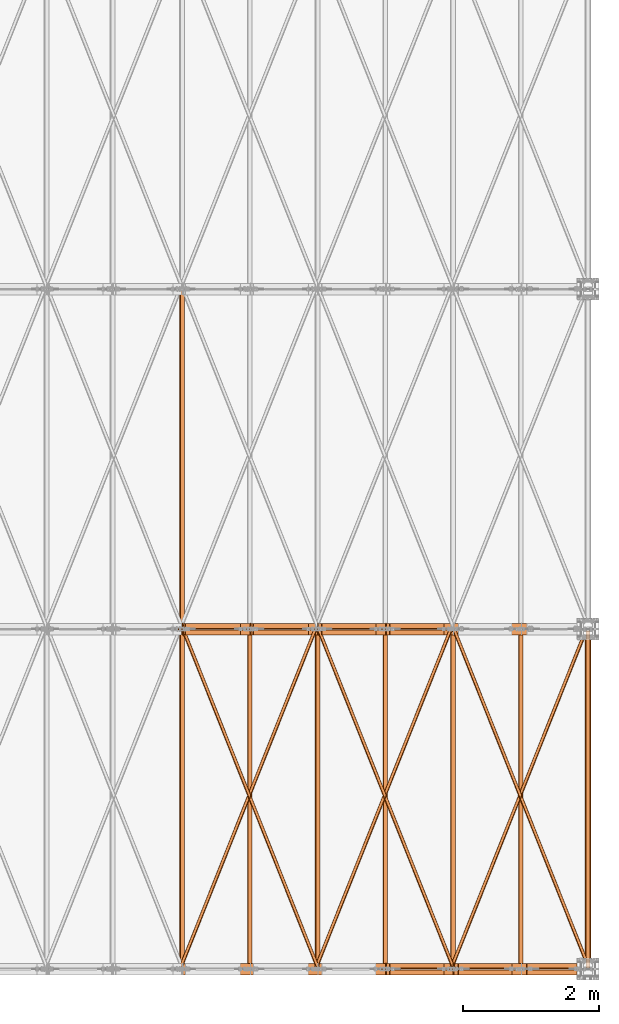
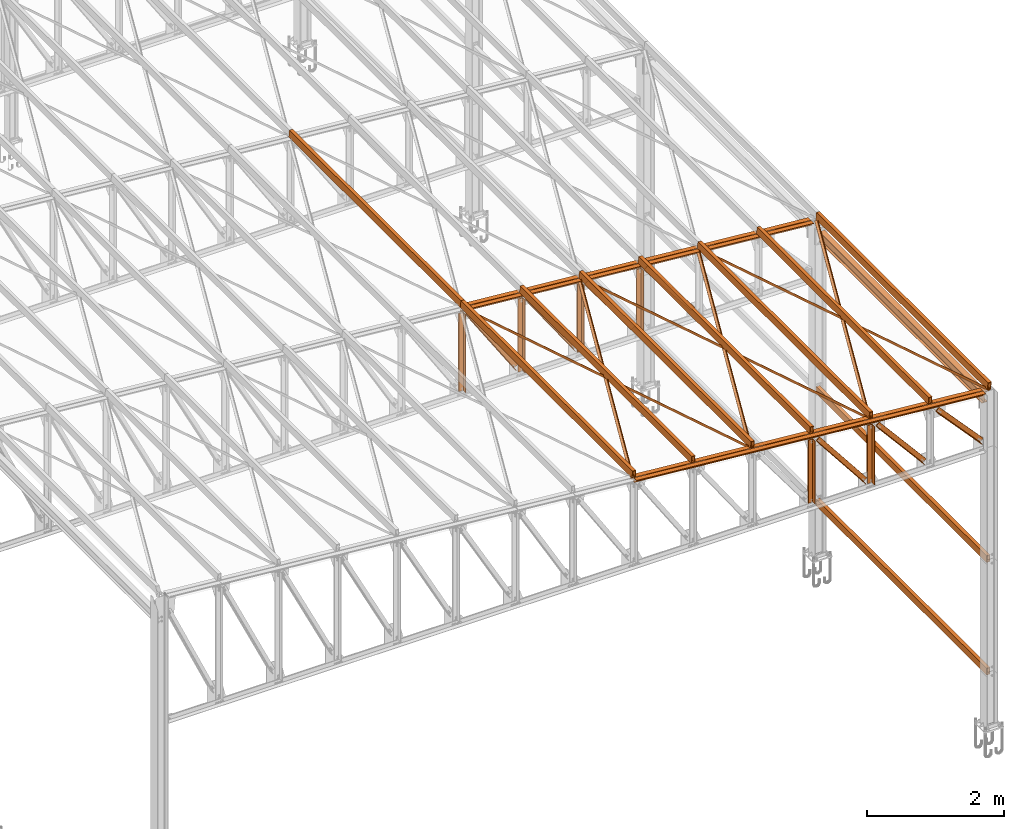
# One storey, part 235 of 251: 47 proxies.
"""IFC4 building model written with IfcOpenShell, lengths in metres."""

from ifc_helpers import new_model, si_unit, frame, frame_2d, origin_with_axes, origin_2d_with_axis, place, context, project, spatial, polyline, hollow_rectangle, i_section, l_section, outline, extrude, clip, halfspace, material, material_profile, profile_set, profile_usage, type_object, element, save


model = new_model("IFC4")

# Units and contexts
model_context = context("Model", 3, precision=1e-05, world=origin_with_axes())
ifc_project = project(units=[si_unit("LENGTHUNIT", "METRE"), si_unit("AREAUNIT", "SQUARE_METRE"), si_unit("VOLUMEUNIT", "CUBIC_METRE"), si_unit("MASSUNIT", "GRAM", prefix="KILO"), si_unit("TIMEUNIT", "SECOND"), si_unit("PLANEANGLEUNIT", "RADIAN"), si_unit("SOLIDANGLEUNIT", "STERADIAN"), si_unit("THERMODYNAMICTEMPERATUREUNIT", "DEGREE_CELSIUS")], contexts=[model_context])

# Site, building, storey
placement_1 = place(None, origin_with_axes())
site = spatial("IfcSite", under=ifc_project, at=placement_1, Name="Italia", CompositionType="ELEMENT")
building = spatial("IfcBuilding", under=site, at=placement_1, Name="Deposito", CompositionType="ELEMENT")
storey = spatial("IfcBuildingStorey", under=building, at=placement_1, Name="Storey 0", CompositionType="ELEMENT", Elevation=0.0)

# Proxies
ifc_material = material(Name="Acciaio", Category="Acciaio")
ifc_material_profile = material_profile(ifc_material, i_section(OverallWidth=0.2, OverallDepth=0.19, WebThickness=0.006, FlangeThickness=0.01, FilletRadius=0.018, at=origin_2d_with_axis()), Name="7 PILASTRO HEA200")
ifc_profile_set = profile_set([ifc_material_profile])
ifc_profile_usage_1 = profile_usage(ifc_profile_set, cardinal=2)
member_type_1 = type_object("IfcMemberType", Name="5 2L80x8", PredefinedType="MEMBER", material=ifc_profile_usage_1)
placement_2 = place(placement_1, origin_with_axes())
proxy_1_placement = place(placement_2, origin_with_axes())
element("IfcBuildingElementProxy", 1, at=proxy_1_placement, inside=storey, type_object=member_type_1, Name="230071", context=model_context, shape_type="SweptSolid", body=[
    extrude(outline(polyline([(0.0, 0.0), (0.08, 0.0), (0.08, -0.00800085), (0.008, -0.00800085), (0.00800001, -0.0800004), (0.0, -0.0800004), (0.0, 0.0)])), frame((14.0298, 0.005, 6.54493), z_axis=(0.99619472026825, 0.0, -0.087155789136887), x_axis=(0.0, 1.0, 0.0)), (0.0, 0.0, 1.0), 5.89033),
])
ifc_profile_usage_2 = profile_usage(ifc_profile_set, cardinal=2)
member_type_2 = type_object("IfcMemberType", Name="5 2L80x8", PredefinedType="MEMBER", material=ifc_profile_usage_2)
proxy_2_placement = place(placement_2, origin_with_axes())
element("IfcBuildingElementProxy", 2, at=proxy_2_placement, inside=storey, type_object=member_type_2, Name="230071", context=model_context, shape_type="SweptSolid", body=[
    extrude(outline(polyline([(0.0, 0.0), (-0.008, 0.0), (-0.00800001, 0.0719995), (-0.08, 0.0719995), (-0.08, 0.0800004), (0.0, 0.0800004), (0.0, 0.0)])), frame((14.0228, -0.00499999, 6.46523), z_axis=(0.99619472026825, 0.0, -0.087155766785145), x_axis=(0.0, 1.0, 0.0)), (0.0, 0.0, 1.0), 5.89033),
])
ifc_profile_usage_3 = profile_usage(ifc_profile_set, cardinal=1)
member_type_3 = type_object("IfcMemberType", Name="5 2L80x8", PredefinedType="MEMBER", material=ifc_profile_usage_3)
proxy_3_placement = place(placement_2, origin_with_axes())
element("IfcBuildingElementProxy", 3, at=proxy_3_placement, inside=storey, type_object=member_type_3, Name="100001", context=model_context, shape_type="SweptSolid", body=[
    extrude(outline(polyline([(0.0, 0.0), (-0.08, 0.0), (-0.08, 0.00799942), (-0.008, 0.00799942), (-0.008, 0.079998), (0.0, 0.079998), (0.0, 0.0)])), frame((19.0971, -0.005, 5.95199), z_axis=(0.675589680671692, 0.0, -0.737277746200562), x_axis=(0.0, 1.0, 0.0)), (0.0, 0.0, 1.0), 1.09364),
])
ifc_profile_usage_4 = profile_usage(ifc_profile_set, cardinal=1)
member_type_4 = type_object("IfcMemberType", Name="5 2L80x8", PredefinedType="MEMBER", material=ifc_profile_usage_4)
proxy_4_placement = place(placement_2, origin_with_axes())
element("IfcBuildingElementProxy", 4, at=proxy_4_placement, inside=storey, type_object=member_type_4, Name="100001", context=model_context, shape_type="SweptSolid", body=[
    extrude(outline(polyline([(0.0, 0.0), (0.008, 0.0), (0.008, -0.0719986), (0.08, -0.0719986), (0.08, -0.0799999), (0.0, -0.0799999), (0.0, 0.0)])), frame((19.1561, 0.005, 6.00604), z_axis=(0.675590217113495, 0.0, -0.737277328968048), x_axis=(0.0, 1.0, 0.0)), (0.0, 0.0, 1.0), 1.09364),
])
ifc_profile_usage_5 = profile_usage(ifc_profile_set, cardinal=1)
member_type_5 = type_object("IfcMemberType", Name="5 2L80x8", PredefinedType="MEMBER", material=ifc_profile_usage_5)
proxy_5_placement = place(placement_2, origin_with_axes())
element("IfcBuildingElementProxy", 5, at=proxy_5_placement, inside=storey, type_object=member_type_5, Name="110001", context=model_context, shape_type="SweptSolid", body=[
    extrude(outline(polyline([(0.0, 0.0), (-0.08, 0.0), (-0.08, 0.00799942), (-0.008, 0.00799942), (-0.008, 0.079998), (0.0, 0.079998), (0.0, 0.0)])), frame((18.0901, -0.005, 6.04221), z_axis=(0.646905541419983, 0.0, -0.762570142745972), x_axis=(0.0, 1.0, 0.0)), (0.0, 0.0, 1.0), 1.21365),
])
ifc_profile_usage_6 = profile_usage(ifc_profile_set, cardinal=1)
member_type_6 = type_object("IfcMemberType", Name="5 2L80x8", PredefinedType="MEMBER", material=ifc_profile_usage_6)
proxy_6_placement = place(placement_2, origin_with_axes())
element("IfcBuildingElementProxy", 6, at=proxy_6_placement, inside=storey, type_object=member_type_6, Name="110001", context=model_context, shape_type="SweptSolid", body=[
    extrude(outline(polyline([(0.0, 0.0), (0.008, 0.0), (0.008, -0.0720005), (0.08, -0.0720005), (0.08, -0.0799999), (0.0, -0.0799999), (0.0, 0.0)])), frame((18.1512, 0.005, 6.09396), z_axis=(0.646905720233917, 0.0, -0.762569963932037), x_axis=(0.0, 1.0, 0.0)), (0.0, 0.0, 1.0), 1.21365),
])
ifc_profile_usage_7 = profile_usage(ifc_profile_set, cardinal=1)
member_type_7 = type_object("IfcMemberType", Name="5 2L80x8", PredefinedType="MEMBER", material=ifc_profile_usage_7)
proxy_7_placement = place(placement_2, origin_with_axes())
element("IfcBuildingElementProxy", 7, at=proxy_7_placement, inside=storey, type_object=member_type_7, Name="12", context=model_context, shape_type="SweptSolid", body=[
    extrude(outline(polyline([(0.0, 0.0), (-0.08, 0.0), (-0.08, 0.00799942), (-0.008, 0.00799942), (-0.008, 0.0799999), (0.0, 0.0799999), (0.0, 0.0)])), frame((18.0301, -0.005, 5.06753), z_axis=(0.0, 0.0, 1.0), x_axis=(0.0, 1.0, 0.0)), (0.0, 0.0, 1.0), 1.03702),
])
ifc_profile_usage_8 = profile_usage(ifc_profile_set, cardinal=1)
member_type_8 = type_object("IfcMemberType", Name="5 2L80x8", PredefinedType="MEMBER", material=ifc_profile_usage_8)
proxy_8_placement = place(placement_2, origin_with_axes())
element("IfcBuildingElementProxy", 8, at=proxy_8_placement, inside=storey, type_object=member_type_8, Name="12", context=model_context, shape_type="SweptSolid", body=[
    extrude(outline(polyline([(0.0, 0.0), (0.008, 0.0), (0.008, -0.0720005), (0.08, -0.0720005), (0.08, -0.0799999), (0.0, -0.0799999), (0.0, 0.0)])), frame((17.9501, 0.005, 5.06753), z_axis=(0.0, 0.0, 1.0), x_axis=(0.0, 1.0, 0.0)), (0.0, 0.0, 1.0), 1.03702),
])
ifc_profile_usage_9 = profile_usage(ifc_profile_set, cardinal=1)
member_type_9 = type_object("IfcMemberType", Name="5 2L80x8", PredefinedType="MEMBER", material=ifc_profile_usage_9)
proxy_9_placement = place(placement_2, origin_with_axes())
element("IfcBuildingElementProxy", 9, at=proxy_9_placement, inside=storey, type_object=member_type_9, Name="120001", context=model_context, shape_type="SweptSolid", body=[
    extrude(outline(polyline([(0.0, 0.0), (-0.08, 0.0), (-0.08, 0.00799942), (-0.008, 0.00799942), (-0.008, 0.0799999), (0.0, 0.0799999), (0.0, 0.0)])), frame((17.0848, -0.005, 6.13218), z_axis=(0.619758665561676, 0.0, -0.784792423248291), x_axis=(0.0, 1.0, 0.0)), (0.0, 0.0, 1.0), 1.27867),
])
ifc_profile_usage_10 = profile_usage(ifc_profile_set, cardinal=1)
member_type_10 = type_object("IfcMemberType", Name="5 2L80x8", PredefinedType="MEMBER", material=ifc_profile_usage_10)
proxy_10_placement = place(placement_2, origin_with_axes())
element("IfcBuildingElementProxy", 10, at=proxy_10_placement, inside=storey, type_object=member_type_10, Name="120001", context=model_context, shape_type="SweptSolid", body=[
    extrude(outline(polyline([(0.0, 0.0), (0.008, 0.0), (0.008, -0.0720005), (0.08, -0.0720005), (0.08, -0.0799999), (0.0, -0.0799999), (0.0, 0.0)])), frame((17.1476, 0.005, 6.18176), z_axis=(0.619759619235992, 0.0, -0.784791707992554), x_axis=(0.0, 1.0, 0.0)), (0.0, 0.0, 1.0), 1.27867),
])
ifc_profile_usage_11 = profile_usage(ifc_profile_set, cardinal=1)
member_type_11 = type_object("IfcMemberType", Name="5 2L80x8", PredefinedType="MEMBER", material=ifc_profile_usage_11)
proxy_11_placement = place(placement_2, origin_with_axes())
element("IfcBuildingElementProxy", 11, at=proxy_11_placement, inside=storey, type_object=member_type_11, Name="11", context=model_context, shape_type="SweptSolid", body=[
    extrude(outline(polyline([(0.0, 0.0), (-0.08, 0.0), (-0.08, 0.00799942), (-0.008, 0.00799942), (-0.008, 0.0799999), (0.0, 0.0799999), (0.0, 0.0)])), frame((17.0339, -0.005, 5.06753), z_axis=(0.0, 0.0, 1.0), x_axis=(0.0, 1.0, 0.0)), (0.0, 0.0, 1.0), 1.12417),
])
ifc_profile_usage_12 = profile_usage(ifc_profile_set, cardinal=1)
member_type_12 = type_object("IfcMemberType", Name="5 2L80x8", PredefinedType="MEMBER", material=ifc_profile_usage_12)
proxy_12_placement = place(placement_2, origin_with_axes())
element("IfcBuildingElementProxy", 12, at=proxy_12_placement, inside=storey, type_object=member_type_12, Name="11", context=model_context, shape_type="SweptSolid", body=[
    extrude(outline(polyline([(0.0, 0.0), (0.008, 0.0), (0.008, -0.0720005), (0.08, -0.0720005), (0.08, -0.0799999), (0.0, -0.0799999), (0.0, 0.0)])), frame((16.9539, 0.005, 5.06753), z_axis=(0.0, 0.0, 1.0), x_axis=(0.0, 1.0, 0.0)), (0.0, 0.0, 1.0), 1.12417),
])
ifc_profile_usage_13 = profile_usage(ifc_profile_set, cardinal=2)
member_type_13 = type_object("IfcMemberType", Name="5 2L80x8", PredefinedType="MEMBER", material=ifc_profile_usage_13)
proxy_13_placement = place(placement_2, origin_with_axes())
element("IfcBuildingElementProxy", 13, at=proxy_13_placement, inside=storey, type_object=member_type_13, Name="230072", context=model_context, shape_type="SweptSolid", body=[
    extrude(outline(polyline([(0.0, 0.0), (0.0799999, 0.0), (0.0799999, -0.00800085), (0.0079999, -0.00800085), (0.0079999, -0.0800004), (0.0, -0.0800004), (0.0, 0.0)])), frame((14.0298, 5.005, 6.54493), z_axis=(0.99619472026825, 0.0, -0.087155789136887), x_axis=(0.0, 1.0, 0.0)), (0.0, 0.0, 1.0), 5.89033),
])
ifc_profile_usage_14 = profile_usage(ifc_profile_set, cardinal=2)
member_type_14 = type_object("IfcMemberType", Name="5 2L80x8", PredefinedType="MEMBER", material=ifc_profile_usage_14)
proxy_14_placement = place(placement_2, origin_with_axes())
element("IfcBuildingElementProxy", 14, at=proxy_14_placement, inside=storey, type_object=member_type_14, Name="230072", context=model_context, shape_type="SweptSolid", body=[
    extrude(outline(polyline([(0.0, 0.0), (-0.0079999, 0.0), (-0.0079999, 0.0719995), (-0.0799999, 0.0719995), (-0.0799999, 0.0800004), (0.0, 0.0800004), (0.0, 0.0)])), frame((14.0228, 4.995, 6.46523), z_axis=(0.99619472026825, 0.0, -0.087155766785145), x_axis=(0.0, 1.0, 0.0)), (0.0, 0.0, 1.0), 5.89033),
])
ifc_profile_usage_15 = profile_usage(ifc_profile_set, cardinal=1)
member_type_15 = type_object("IfcMemberType", Name="5 2L80x8", PredefinedType="MEMBER", material=ifc_profile_usage_15)
proxy_15_placement = place(placement_2, origin_with_axes())
element("IfcBuildingElementProxy", 15, at=proxy_15_placement, inside=storey, type_object=member_type_15, Name="120002", context=model_context, shape_type="SweptSolid", body=[
    extrude(outline(polyline([(0.0, 0.0), (-0.0799999, 0.0), (-0.0799999, 0.00799942), (-0.0079999, 0.00799942), (-0.0079999, 0.0799999), (0.0, 0.0799999), (0.0, 0.0)])), frame((17.0848, 4.995, 6.13218), z_axis=(0.619758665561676, 0.0, -0.784792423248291), x_axis=(0.0, 1.0, 0.0)), (0.0, 0.0, 1.0), 1.27867),
])
ifc_profile_usage_16 = profile_usage(ifc_profile_set, cardinal=1)
member_type_16 = type_object("IfcMemberType", Name="5 2L80x8", PredefinedType="MEMBER", material=ifc_profile_usage_16)
proxy_16_placement = place(placement_2, origin_with_axes())
element("IfcBuildingElementProxy", 16, at=proxy_16_placement, inside=storey, type_object=member_type_16, Name="120002", context=model_context, shape_type="SweptSolid", body=[
    extrude(outline(polyline([(0.0, 0.0), (0.0079999, 0.0), (0.0079999, -0.0720005), (0.0799999, -0.0720005), (0.0799999, -0.0799999), (0.0, -0.0799999), (0.0, 0.0)])), frame((17.1476, 5.005, 6.18176), z_axis=(0.619759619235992, 0.0, -0.784791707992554), x_axis=(0.0, 1.0, 0.0)), (0.0, 0.0, 1.0), 1.27867),
])
ifc_profile_usage_17 = profile_usage(ifc_profile_set, cardinal=1)
member_type_17 = type_object("IfcMemberType", Name="5 2L80x8", PredefinedType="MEMBER", material=ifc_profile_usage_17)
proxy_17_placement = place(placement_2, origin_with_axes())
element("IfcBuildingElementProxy", 17, at=proxy_17_placement, inside=storey, type_object=member_type_17, Name="29", context=model_context, shape_type="SweptSolid", body=[
    extrude(outline(polyline([(0.0, 0.0), (-0.0799999, 0.0), (-0.0799999, 0.00799942), (-0.0079999, 0.00799942), (-0.0079999, 0.0799999), (0.0, 0.0799999), (0.0, 0.0)])), frame((17.0339, 4.995, 5.06753), z_axis=(0.0, 0.0, 1.0), x_axis=(0.0, 1.0, 0.0)), (0.0, 0.0, 1.0), 1.12417),
])
ifc_profile_usage_18 = profile_usage(ifc_profile_set, cardinal=1)
member_type_18 = type_object("IfcMemberType", Name="5 2L80x8", PredefinedType="MEMBER", material=ifc_profile_usage_18)
proxy_18_placement = place(placement_2, origin_with_axes())
element("IfcBuildingElementProxy", 18, at=proxy_18_placement, inside=storey, type_object=member_type_18, Name="29", context=model_context, shape_type="SweptSolid", body=[
    extrude(outline(polyline([(0.0, 0.0), (0.0079999, 0.0), (0.0079999, -0.0720005), (0.0799999, -0.0720005), (0.0799999, -0.0799999), (0.0, -0.0799999), (0.0, 0.0)])), frame((16.9539, 5.005, 5.06753), z_axis=(0.0, 0.0, 1.0), x_axis=(0.0, 1.0, 0.0)), (0.0, 0.0, 1.0), 1.12417),
])
ifc_profile_usage_19 = profile_usage(ifc_profile_set, cardinal=1)
member_type_19 = type_object("IfcMemberType", Name="5 2L80x8", PredefinedType="MEMBER", material=ifc_profile_usage_19)
proxy_19_placement = place(placement_2, origin_with_axes())
element("IfcBuildingElementProxy", 19, at=proxy_19_placement, inside=storey, type_object=member_type_19, Name="130002", context=model_context, shape_type="SweptSolid", body=[
    extrude(outline(polyline([(0.0, 0.0), (-0.0799999, 0.0), (-0.0799999, 0.00800133), (-0.0079999, 0.00800133), (-0.0079999, 0.0800018), (0.0, 0.0800018), (0.0, 0.0)])), frame((16.0808, 4.995, 6.22193), z_axis=(0.594154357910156, 0.0, -0.804351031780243), x_axis=(0.0, 1.0, 0.0)), (0.0, 0.0, 1.0), 1.3443),
])
ifc_profile_usage_20 = profile_usage(ifc_profile_set, cardinal=1)
member_type_20 = type_object("IfcMemberType", Name="5 2L80x8", PredefinedType="MEMBER", material=ifc_profile_usage_20)
proxy_20_placement = place(placement_2, origin_with_axes())
element("IfcBuildingElementProxy", 20, at=proxy_20_placement, inside=storey, type_object=member_type_20, Name="130002", context=model_context, shape_type="SweptSolid", body=[
    extrude(outline(polyline([(0.0, 0.0), (0.0079999, 0.0), (0.0079999, -0.0720005), (0.0799999, -0.0720005), (0.0799999, -0.0799999), (0.0, -0.0799999), (0.0, 0.0)])), frame((16.1452, 5.005, 6.26946), z_axis=(0.594154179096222, 0.0, -0.804351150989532), x_axis=(0.0, 1.0, 0.0)), (0.0, 0.0, 1.0), 1.3443),
])
ifc_profile_usage_21 = profile_usage(ifc_profile_set, cardinal=1)
member_type_21 = type_object("IfcMemberType", Name="5 2L80x8", PredefinedType="MEMBER", material=ifc_profile_usage_21)
proxy_21_placement = place(placement_2, origin_with_axes())
element("IfcBuildingElementProxy", 21, at=proxy_21_placement, inside=storey, type_object=member_type_21, Name="28", context=model_context, shape_type="SweptSolid", body=[
    extrude(outline(polyline([(0.0, 0.0), (-0.0799999, 0.0), (-0.0799999, 0.00799942), (-0.0079999, 0.00799942), (-0.0079999, 0.079999), (0.0, 0.079999), (0.0, 0.0)])), frame((16.0377, 4.995, 5.06753), z_axis=(0.0, 0.0, 1.0), x_axis=(0.0, 1.0, 0.0)), (0.0, 0.0, 1.0), 1.21133),
])
ifc_profile_usage_22 = profile_usage(ifc_profile_set, cardinal=1)
member_type_22 = type_object("IfcMemberType", Name="5 2L80x8", PredefinedType="MEMBER", material=ifc_profile_usage_22)
proxy_22_placement = place(placement_2, origin_with_axes())
element("IfcBuildingElementProxy", 22, at=proxy_22_placement, inside=storey, type_object=member_type_22, Name="28", context=model_context, shape_type="SweptSolid", body=[
    extrude(outline(polyline([(0.0, 0.0), (0.0079999, 0.0), (0.0079999, -0.0719995), (0.0799999, -0.0719995), (0.0799999, -0.079999), (0.0, -0.079999), (0.0, 0.0)])), frame((15.9577, 5.005, 5.06753), z_axis=(0.0, 0.0, 1.0), x_axis=(0.0, 1.0, 0.0)), (0.0, 0.0, 1.0), 1.21133),
])
ifc_profile_usage_23 = profile_usage(ifc_profile_set, cardinal=1)
member_type_23 = type_object("IfcMemberType", Name="5 2L80x8", PredefinedType="MEMBER", material=ifc_profile_usage_23)
proxy_23_placement = place(placement_2, origin_with_axes())
element("IfcBuildingElementProxy", 23, at=proxy_23_placement, inside=storey, type_object=member_type_23, Name="140002", context=model_context, shape_type="SweptSolid", body=[
    extrude(outline(polyline([(0.0, 0.0), (-0.0799999, 0.0), (-0.0799999, 0.00800037), (-0.0079999, 0.00800037), (-0.0079999, 0.0800018), (0.0, 0.0800018), (0.0, 0.0)])), frame((15.0779, 4.995, 6.31149), z_axis=(0.570057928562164, 0.0, -0.821604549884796), x_axis=(0.0, 1.0, 0.0)), (0.0, 0.0, 1.0), 1.41056),
])
ifc_profile_usage_24 = profile_usage(ifc_profile_set, cardinal=1)
member_type_24 = type_object("IfcMemberType", Name="5 2L80x8", PredefinedType="MEMBER", material=ifc_profile_usage_24)
proxy_24_placement = place(placement_2, origin_with_axes())
element("IfcBuildingElementProxy", 24, at=proxy_24_placement, inside=storey, type_object=member_type_24, Name="140002", context=model_context, shape_type="SweptSolid", body=[
    extrude(outline(polyline([(0.0, 0.0), (0.0079999, 0.0), (0.0079999, -0.0720024), (0.0799999, -0.0720024), (0.0799999, -0.0800018), (0.0, -0.0800018), (0.0, 0.0)])), frame((15.1436, 5.005, 6.35709), z_axis=(0.570057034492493, 0.0, -0.821605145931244), x_axis=(0.0, 1.0, 0.0)), (0.0, 0.0, 1.0), 1.41056),
])
ifc_profile_usage_25 = profile_usage(ifc_profile_set, cardinal=1)
member_type_25 = type_object("IfcMemberType", Name="5 2L80x8", PredefinedType="MEMBER", material=ifc_profile_usage_25)
proxy_25_placement = place(placement_2, origin_with_axes())
element("IfcBuildingElementProxy", 25, at=proxy_25_placement, inside=storey, type_object=member_type_25, Name="27", context=model_context, shape_type="SweptSolid", body=[
    extrude(outline(polyline([(0.0, 0.0), (-0.0799999, 0.0), (-0.0799999, 0.00800037), (-0.0079999, 0.00800037), (-0.0079999, 0.0799999), (0.0, 0.0799999), (0.0, 0.0)])), frame((15.0415, 4.995, 5.06753), z_axis=(0.0, 0.0, 1.0), x_axis=(0.0, 1.0, 0.0)), (0.0, 0.0, 1.0), 1.29848),
])
ifc_profile_usage_26 = profile_usage(ifc_profile_set, cardinal=1)
member_type_26 = type_object("IfcMemberType", Name="5 2L80x8", PredefinedType="MEMBER", material=ifc_profile_usage_26)
proxy_26_placement = place(placement_2, origin_with_axes())
element("IfcBuildingElementProxy", 26, at=proxy_26_placement, inside=storey, type_object=member_type_26, Name="27", context=model_context, shape_type="SweptSolid", body=[
    extrude(outline(polyline([(0.0, 0.0), (0.0079999, 0.0), (0.0079999, -0.0719995), (0.0799999, -0.0719995), (0.0799999, -0.0799999), (0.0, -0.0799999), (0.0, 0.0)])), frame((14.9615, 5.005, 5.06753), z_axis=(0.0, 0.0, 1.0), x_axis=(0.0, 1.0, 0.0)), (0.0, 0.0, 1.0), 1.29848),
])
ifc_profile_usage_27 = profile_usage(ifc_profile_set, cardinal=1)
member_type_27 = type_object("IfcMemberType", Name="5 2L80x8", PredefinedType="MEMBER", material=ifc_profile_usage_27)
proxy_27_placement = place(placement_2, origin_with_axes())
element("IfcBuildingElementProxy", 27, at=proxy_27_placement, inside=storey, type_object=member_type_27, Name="150002", context=model_context, shape_type="SweptSolid", body=[
    extrude(outline(polyline([(0.0, 0.0), (-0.0799999, 0.0), (-0.0799999, 0.00800037), (-0.0079999, 0.00800037), (-0.0079999, 0.0800018), (0.0, 0.0800018), (0.0, 0.0)])), frame((14.0758, 4.995, 6.40086), z_axis=(0.547415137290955, 0.0, -0.836861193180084), x_axis=(0.0, 1.0, 0.0)), (0.0, 0.0, 1.0), 1.47743),
])
ifc_profile_usage_28 = profile_usage(ifc_profile_set, cardinal=1)
member_type_28 = type_object("IfcMemberType", Name="5 2L80x8", PredefinedType="MEMBER", material=ifc_profile_usage_28)
proxy_28_placement = place(placement_2, origin_with_axes())
element("IfcBuildingElementProxy", 28, at=proxy_28_placement, inside=storey, type_object=member_type_28, Name="150002", context=model_context, shape_type="SweptSolid", body=[
    extrude(outline(polyline([(0.0, 0.0), (0.0079999, 0.0), (0.0079999, -0.0720005), (0.0799999, -0.0720005), (0.0799999, -0.0800009), (0.0, -0.0800009), (0.0, 0.0)])), frame((14.1427, 5.005, 6.44465), z_axis=(0.547414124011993, 0.0, -0.836861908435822), x_axis=(0.0, 1.0, 0.0)), (0.0, 0.0, 1.0), 1.47743),
])
ifc_profile_usage_29 = profile_usage(ifc_profile_set, cardinal=1)
member_type_29 = type_object("IfcMemberType", Name="5 2L80x8", PredefinedType="MEMBER", material=ifc_profile_usage_29)
proxy_29_placement = place(placement_2, origin_with_axes())
element("IfcBuildingElementProxy", 29, at=proxy_29_placement, inside=storey, type_object=member_type_29, Name="26", context=model_context, shape_type="SweptSolid", body=[
    extrude(outline(polyline([(0.0, 0.0), (-0.0799999, 0.0), (-0.0799999, 0.00800037), (-0.0079999, 0.00800037), (-0.0079999, 0.0799999), (0.0, 0.0799999), (0.0, 0.0)])), frame((14.0453, 4.995, 5.06753), z_axis=(0.0, 0.0, 1.0), x_axis=(0.0, 1.0, 0.0)), (0.0, 0.0, 1.0), 1.38564),
])
ifc_profile_usage_30 = profile_usage(ifc_profile_set, cardinal=1)
member_type_30 = type_object("IfcMemberType", Name="5 2L80x8", PredefinedType="MEMBER", material=ifc_profile_usage_30)
proxy_30_placement = place(placement_2, origin_with_axes())
element("IfcBuildingElementProxy", 30, at=proxy_30_placement, inside=storey, type_object=member_type_30, Name="26", context=model_context, shape_type="SweptSolid", body=[
    extrude(outline(polyline([(0.0, 0.0), (0.0079999, 0.0), (0.0079999, -0.0719995), (0.0799999, -0.0719995), (0.0799999, -0.0799999), (0.0, -0.0799999), (0.0, 0.0)])), frame((13.9653, 5.005, 5.06753), z_axis=(0.0, 0.0, 1.0), x_axis=(0.0, 1.0, 0.0)), (0.0, 0.0, 1.0), 1.38564),
])
ifc_profile_usage_31 = profile_usage(ifc_profile_set, cardinal=8)
member_type_31 = type_object("IfcMemberType", Name="1 RHS120x60x8", PredefinedType="MEMBER", material=ifc_profile_usage_31)
proxy_31_placement = place(placement_2, origin_with_axes())
element("IfcBuildingElementProxy", 31, at=proxy_31_placement, inside=storey, type_object=member_type_31, Name="150029", context=model_context, shape_type="SweptSolid", body=[
    extrude(hollow_rectangle(XDim=0.06, YDim=0.12, WallThickness=0.008, at=frame_2d((0.0, 0.0), x_axis=(0.996194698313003, 0.087155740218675))), frame((14.03, 0.0, 6.60517), z_axis=(0.0, 1.0, 0.0), x_axis=(-1.0, 0.0, 0.0)), (0.0, 0.0, 1.0), 5.0),
])
ifc_profile_usage_32 = profile_usage(ifc_profile_set, cardinal=8)
member_type_32 = type_object("IfcMemberType", Name="1 RHS120x60x8", PredefinedType="MEMBER", material=ifc_profile_usage_32)
proxy_32_placement = place(placement_2, origin_with_axes())
element("IfcBuildingElementProxy", 32, at=proxy_32_placement, inside=storey, type_object=member_type_32, Name="150029", context=model_context, shape_type="SweptSolid", body=[
    extrude(hollow_rectangle(XDim=0.06, YDim=0.12, WallThickness=0.008, at=frame_2d((0.0, 0.0), x_axis=(0.996194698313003, 0.087155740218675))), frame((14.03, 5.0, 6.60517), z_axis=(0.0, 1.0, 0.0), x_axis=(-1.0, 0.0, 0.0)), (0.0, 0.0, 1.0), 5.0),
])
ifc_profile_usage_33 = profile_usage(ifc_profile_set, cardinal=8)
member_type_33 = type_object("IfcMemberType", Name="1 RHS120x60x8", PredefinedType="MEMBER", material=ifc_profile_usage_33)
proxy_33_placement = place(placement_2, origin_with_axes())
element("IfcBuildingElementProxy", 33, at=proxy_33_placement, inside=storey, type_object=member_type_33, Name="130032", context=model_context, shape_type="SweptSolid", body=[
    extrude(hollow_rectangle(XDim=0.06, YDim=0.12, WallThickness=0.008, at=frame_2d((0.0, 0.0), x_axis=(0.996194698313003, 0.087155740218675))), frame((16.0224, 0.0, 6.43086), z_axis=(0.0, 1.0, 0.0), x_axis=(-1.0, 0.0, 0.0)), (0.0, 0.0, 1.0), 5.0),
])
ifc_profile_usage_34 = profile_usage(ifc_profile_set, cardinal=8)
member_type_34 = type_object("IfcMemberType", Name="1 RHS120x60x8", PredefinedType="MEMBER", material=ifc_profile_usage_34)
proxy_34_placement = place(placement_2, origin_with_axes())
element("IfcBuildingElementProxy", 34, at=proxy_34_placement, inside=storey, type_object=member_type_34, Name="110035", context=model_context, shape_type="SweptSolid", body=[
    extrude(hollow_rectangle(XDim=0.06, YDim=0.12, WallThickness=0.008, at=frame_2d((0.0, 0.0), x_axis=(0.996194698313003, 0.087155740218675))), frame((18.0148, 0.0, 6.25655), z_axis=(0.0, 1.0, 0.0), x_axis=(-1.0, 0.0, 0.0)), (0.0, 0.0, 1.0), 5.0),
])
ifc_profile_usage_35 = profile_usage(ifc_profile_set, cardinal=8)
member_type_35 = type_object("IfcMemberType", Name="1 RHS120x60x8", PredefinedType="MEMBER", material=ifc_profile_usage_35)
proxy_35_placement = place(placement_2, origin_with_axes())
element("IfcBuildingElementProxy", 35, at=proxy_35_placement, inside=storey, type_object=member_type_35, Name="90037", context=model_context, shape_type="SweptSolid", body=[
    extrude(hollow_rectangle(XDim=0.06, YDim=0.12, WallThickness=0.008, at=frame_2d((0.0, 0.0), x_axis=(0.996194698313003, 0.087155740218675))), frame((20.0072, 0.0, 6.08224), z_axis=(0.0, 1.0, 0.0), x_axis=(-1.0, 0.0, 0.0)), (0.0, 0.0, 1.0), 5.0),
])
ifc_profile_usage_36 = profile_usage(ifc_profile_set, cardinal=8)
member_type_36 = type_object("IfcMemberType", Name="1 RHS120x60x8", PredefinedType="MEMBER", material=ifc_profile_usage_36)
proxy_36_placement = place(placement_2, origin_with_axes())
element("IfcBuildingElementProxy", 36, at=proxy_36_placement, inside=storey, type_object=member_type_36, Name="140030", context=model_context, shape_type="SweptSolid", body=[
    extrude(hollow_rectangle(XDim=0.06, YDim=0.12, WallThickness=0.008, at=frame_2d((0.0, 0.0), x_axis=(0.996194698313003, 0.087155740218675))), frame((15.0262, 0.0, 6.51801), z_axis=(0.0, 1.0, 0.0), x_axis=(-1.0, 0.0, 0.0)), (0.0, 0.0, 1.0), 5.0),
])
ifc_profile_usage_37 = profile_usage(ifc_profile_set, cardinal=8)
member_type_37 = type_object("IfcMemberType", Name="1 RHS120x60x8", PredefinedType="MEMBER", material=ifc_profile_usage_37)
proxy_37_placement = place(placement_2, origin_with_axes())
element("IfcBuildingElementProxy", 37, at=proxy_37_placement, inside=storey, type_object=member_type_37, Name="120033", context=model_context, shape_type="SweptSolid", body=[
    extrude(hollow_rectangle(XDim=0.06, YDim=0.12, WallThickness=0.008, at=frame_2d((0.0, 0.0), x_axis=(0.996194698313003, 0.087155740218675))), frame((17.0186, 0.0, 6.3437), z_axis=(0.0, 1.0, 0.0), x_axis=(-1.0, 0.0, 0.0)), (0.0, 0.0, 1.0), 5.0),
])
ifc_profile_usage_38 = profile_usage(ifc_profile_set, cardinal=8)
member_type_38 = type_object("IfcMemberType", Name="1 RHS120x60x8", PredefinedType="MEMBER", material=ifc_profile_usage_38)
proxy_38_placement = place(placement_2, origin_with_axes())
element("IfcBuildingElementProxy", 38, at=proxy_38_placement, inside=storey, type_object=member_type_38, Name="100036", context=model_context, shape_type="SweptSolid", body=[
    extrude(hollow_rectangle(XDim=0.06, YDim=0.12, WallThickness=0.008, at=frame_2d((0.0, 0.0), x_axis=(0.996194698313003, 0.087155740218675))), frame((19.011, 0.0, 6.16939), z_axis=(0.0, 1.0, 0.0), x_axis=(-1.0, 0.0, 0.0)), (0.0, 0.0, 1.0), 5.0),
])
ifc_profile_usage_39 = profile_usage(ifc_profile_set, cardinal=5)
member_type_39 = type_object("IfcMemberType", Name="1 RHS120x60x8", PredefinedType="MEMBER", material=ifc_profile_usage_39)
proxy_39_placement = place(placement_2, frame((20.0, -2.5, 1.0), z_axis=(0.0, 0.0, 1.0), x_axis=(1.0, 0.0, 0.0)))
element("IfcBuildingElementProxy", 39, at=proxy_39_placement, inside=storey, type_object=member_type_39, Name="280177", context=model_context, shape_type="Clipping", body=[
    clip(clip(extrude(hollow_rectangle(XDim=0.06, YDim=0.12, WallThickness=0.008, at=origin_2d_with_axis()), frame((0.0, 0.0, 0.0), z_axis=(0.0, 1.0, 0.0), x_axis=(-1.0, 0.0, 0.0)), (0.0, 0.0, 1.0), 10.0), halfspace(frame((-0.00519943, 2.518, 0.0112001), z_axis=(0.0, -1.0, 0.0), x_axis=(1.0, 0.0, 0.0)), False)), halfspace(frame((-0.00519943, 7.482, 0.0112001), z_axis=(0.0, -1.0, 0.0), x_axis=(1.0, 0.0, 0.0)), True)),
])
ifc_profile_usage_40 = profile_usage(ifc_profile_set, cardinal=5)
member_type_40 = type_object("IfcMemberType", Name="1 RHS120x60x8", PredefinedType="MEMBER", material=ifc_profile_usage_40)
proxy_40_placement = place(placement_2, frame((20.0, -2.5, 3.0), z_axis=(0.0, 0.0, 1.0), x_axis=(1.0, 0.0, 0.0)))
element("IfcBuildingElementProxy", 40, at=proxy_40_placement, inside=storey, type_object=member_type_40, Name="280107", context=model_context, shape_type="Clipping", body=[
    clip(clip(extrude(hollow_rectangle(XDim=0.06, YDim=0.12, WallThickness=0.008, at=origin_2d_with_axis()), frame((0.0, 0.0, 0.0), z_axis=(0.0, 1.0, 0.0), x_axis=(-1.0, 0.0, 0.0)), (0.0, 0.0, 1.0), 10.0), halfspace(frame((-0.00519943, 2.518, 0.0112), z_axis=(0.0, -1.0, 0.0), x_axis=(1.0, 0.0, 0.0)), False)), halfspace(frame((-0.00519943, 7.482, 0.0112), z_axis=(0.0, -1.0, 0.0), x_axis=(1.0, 0.0, 0.0)), True)),
])
ifc_profile_usage_41 = profile_usage(ifc_profile_set, cardinal=5)
member_type_41 = type_object("IfcMemberType", Name="9 ARCARECCI IPE180", PredefinedType="MEMBER", material=ifc_profile_usage_41)
proxy_41_placement = place(placement_2, frame((20.000001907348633, -2.5, 5.800000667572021), z_axis=(0.0, 0.0, 1.0), x_axis=(1.0, 0.0, 0.0)))
element("IfcBuildingElementProxy", 41, at=proxy_41_placement, inside=storey, type_object=member_type_41, Name="280037", context=model_context, shape_type="Clipping", body=[
    clip(clip(extrude(i_section(OverallWidth=0.091, OverallDepth=0.18, WebThickness=0.0053, FlangeThickness=0.008, FilletRadius=0.009, at=origin_2d_with_axis()), frame((0.0, 0.0, 0.0), z_axis=(0.0, 1.0, 0.0), x_axis=(-1.0, 0.0, 0.0)), (0.0, 0.0, 1.0), 10.0), halfspace(frame((0.0, 2.63, -9.53674e-07), z_axis=(0.0, -1.0, 0.0), x_axis=(1.0, 0.0, 0.0)), False)), halfspace(frame((-3.8147e-06, 7.37, 0.0), z_axis=(0.0, -1.0, 0.0), x_axis=(1.0, 0.0, 0.0)), True)),
])
ifc_profile_usage_42 = profile_usage(ifc_profile_set, cardinal=5)
member_type_42 = type_object("IfcMemberType", Name="11 CONTROVENTI COPERTURA L50x5", PredefinedType="MEMBER", material=ifc_profile_usage_42)
proxy_42_placement = place(placement_2, origin_with_axes())
element("IfcBuildingElementProxy", 42, at=proxy_42_placement, inside=storey, type_object=member_type_42, Name="170048", context=model_context, shape_type="SweptSolid", body=[
    extrude(l_section(Depth=0.05, Width=0.05, Thickness=0.005, FilletRadius=0.007, EdgeRadius=0.0035, at=origin_2d_with_axis()), frame((18.0262, 5.0068, 6.1943), z_axis=(0.369977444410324, -0.928476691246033, -0.03236885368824), x_axis=(0.928963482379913, 0.370171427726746, 0.0)), (0.0, 0.0, 1.0), 5.38517),
])
ifc_profile_usage_43 = profile_usage(ifc_profile_set, cardinal=5)
member_type_43 = type_object("IfcMemberType", Name="11 CONTROVENTI COPERTURA L50x5", PredefinedType="MEMBER", material=ifc_profile_usage_43)
proxy_43_placement = place(placement_2, origin_with_axes())
element("IfcBuildingElementProxy", 43, at=proxy_43_placement, inside=storey, type_object=member_type_43, Name="110038", context=model_context, shape_type="SweptSolid", body=[
    extrude(l_section(Depth=0.05, Width=0.05, Thickness=0.005, FilletRadius=0.007, EdgeRadius=0.0035, at=origin_2d_with_axis()), frame((17.9893, 0.00732826, 6.1943), z_axis=(0.369977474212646, 0.928476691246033, -0.03236885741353), x_axis=(-0.928963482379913, 0.370171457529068, 0.0)), (0.0, 0.0, 1.0), 5.38516),
])
ifc_profile_usage_44 = profile_usage(ifc_profile_set, cardinal=5)
member_type_44 = type_object("IfcMemberType", Name="11 CONTROVENTI COPERTURA L50x5", PredefinedType="MEMBER", material=ifc_profile_usage_44)
proxy_44_placement = place(placement_2, origin_with_axes())
element("IfcBuildingElementProxy", 44, at=proxy_44_placement, inside=storey, type_object=member_type_44, Name="150045", context=model_context, shape_type="SweptSolid", body=[
    extrude(l_section(Depth=0.05, Width=0.05, Thickness=0.005, FilletRadius=0.007, EdgeRadius=0.0035, at=origin_2d_with_axis()), frame((14.0045, 0.00732825, 6.54292), z_axis=(0.369977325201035, 0.928476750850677, -0.032368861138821), x_axis=(-0.928963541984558, 0.370171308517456, 0.0)), (0.0, 0.0, 1.0), 5.38516),
])
ifc_profile_usage_45 = profile_usage(ifc_profile_set, cardinal=5)
member_type_45 = type_object("IfcMemberType", Name="11 CONTROVENTI COPERTURA L50x5", PredefinedType="MEMBER", material=ifc_profile_usage_45)
proxy_45_placement = place(placement_2, origin_with_axes())
element("IfcBuildingElementProxy", 45, at=proxy_45_placement, inside=storey, type_object=member_type_45, Name="190050", context=model_context, shape_type="SweptSolid", body=[
    extrude(l_section(Depth=0.05, Width=0.05, Thickness=0.005, FilletRadius=0.007, EdgeRadius=0.0035, at=origin_2d_with_axis()), frame((16.0338, 5.0068, 6.36861), z_axis=(0.369977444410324, -0.928476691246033, -0.032368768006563), x_axis=(0.928963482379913, 0.370171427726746, 0.0)), (0.0, 0.0, 1.0), 5.38517),
])
ifc_profile_usage_46 = profile_usage(ifc_profile_set, cardinal=5)
member_type_46 = type_object("IfcMemberType", Name="11 CONTROVENTI COPERTURA L50x5", PredefinedType="MEMBER", material=ifc_profile_usage_46)
proxy_46_placement = place(placement_2, origin_with_axes())
element("IfcBuildingElementProxy", 46, at=proxy_46_placement, inside=storey, type_object=member_type_46, Name="130044", context=model_context, shape_type="SweptSolid", body=[
    extrude(l_section(Depth=0.05, Width=0.05, Thickness=0.005, FilletRadius=0.007, EdgeRadius=0.0035, at=origin_2d_with_axis()), frame((15.9969, 0.00732826, 6.36861), z_axis=(0.369977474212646, 0.928476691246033, -0.032368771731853), x_axis=(-0.928963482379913, 0.370171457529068, 0.0)), (0.0, 0.0, 1.0), 5.38516),
])
ifc_profile_usage_47 = profile_usage(ifc_profile_set, cardinal=5)
member_type_47 = type_object("IfcMemberType", Name="11 CONTROVENTI COPERTURA L50x5", PredefinedType="MEMBER", material=ifc_profile_usage_47)
proxy_47_placement = place(placement_2, origin_with_axes())
element("IfcBuildingElementProxy", 47, at=proxy_47_placement, inside=storey, type_object=member_type_47, Name="210057", context=model_context, shape_type="SweptSolid", body=[
    extrude(l_section(Depth=0.05, Width=0.05, Thickness=0.005, FilletRadius=0.007, EdgeRadius=0.0035, at=origin_2d_with_axis()), frame((14.0414, 5.0068, 6.54292), z_axis=(0.3699771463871, -0.928476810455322, -0.032368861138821), x_axis=(0.928963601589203, 0.370171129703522, 0.0)), (0.0, 0.0, 1.0), 5.38516),
])

save(model, "model.ifc")
